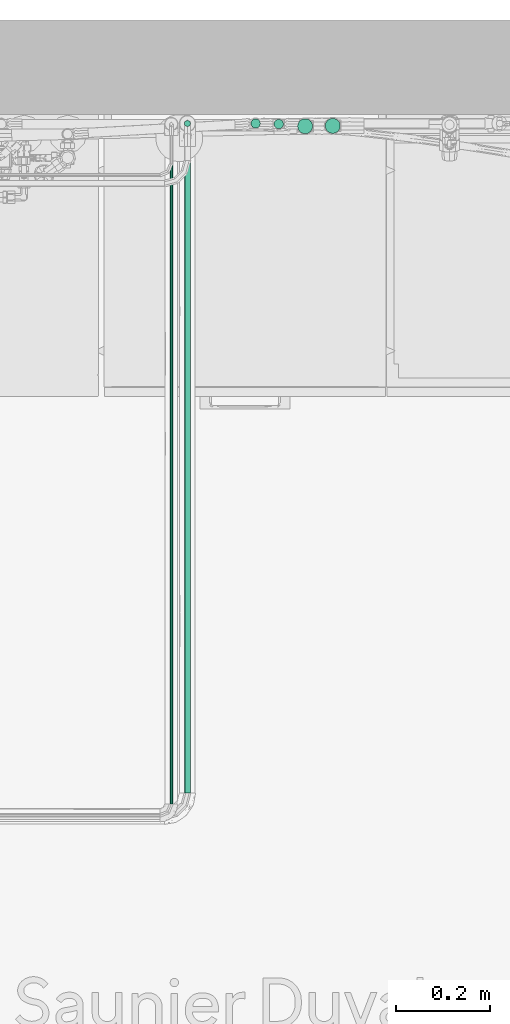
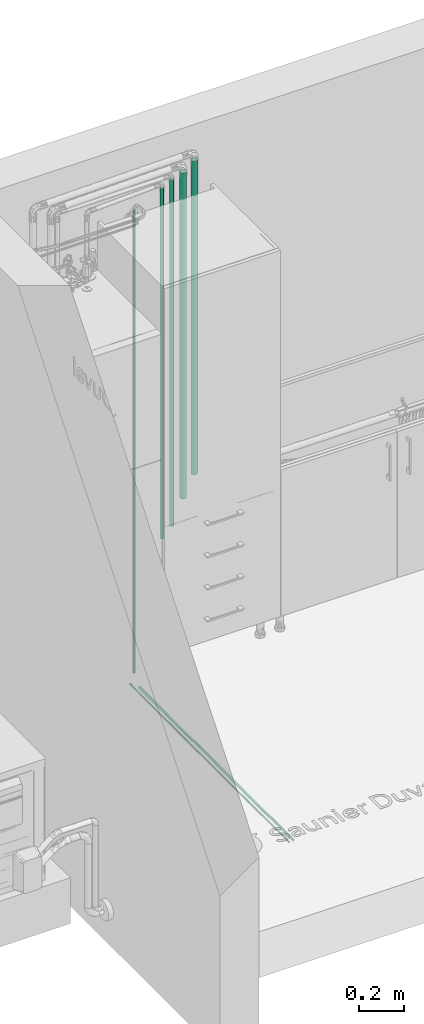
# One storey, part 15 of 30: 7 flow segments.
"""IFC2X3 building model written with IfcOpenShell, lengths in metres."""

import ifcopenshell
import ifcopenshell.guid

model = None  # the IFC model being written
_history = None  # IfcOwnerHistory: only IFC2X3 demands one
_inside = {}  # id of a spatial element -> (the spatial element, [elements in it])
_under = {}  # id of a project, library or spatial element -> (it, [spatial elements below it])
_declared = {}  # id of a project -> (the project, [libraries it declares])
_typed = {}  # id of a type object -> (the type object, [elements of that type])
_made_of = {}  # id of a material, layer set ... -> (it, [elements and type objects made of it])


def new_model(schema):
    """Start an empty IFC model of exactly this schema.

    Asked for "IFC4X3", IfcOpenShell would pick the latest addendum, in which some entities
    have other attributes; the version numbers below select the first issue.
    IFC2X3 requires an IfcOwnerHistory on every rooted entity: one is made here for all.
    """
    global model, _history
    if schema == "IFC4X3":
        model = ifcopenshell.file(schema_version=(4, 3, 0, 0))
    else:
        model = ifcopenshell.file(schema=schema)
    _inside.clear()
    _under.clear()
    _declared.clear()
    _typed.clear()
    _made_of.clear()
    _history = None
    if model.schema == "IFC2X3":
        org = make("IfcOrganization", Name="unknown")
        user = make(
            "IfcPersonAndOrganization",
            ThePerson=make("IfcPerson", FamilyName="unknown"),
            TheOrganization=org,
        )
        app = make(
            "IfcApplication",
            ApplicationDeveloper=org,
            Version="unknown",
            ApplicationFullName="unknown",
            ApplicationIdentifier="unknown",
        )
        _history = make(
            "IfcOwnerHistory",
            OwningUser=user,
            OwningApplication=app,
            ChangeAction="ADDED",
            CreationDate=0,
        )
    return model


def make(cls, **values):
    """One entity of the class cls with the attributes given. An attribute that is None is left unset."""
    return model.create_entity(
        cls, **{name: value for name, value in values.items() if value is not None}
    )


def entity(cls, *values):
    """Any entity or typed value of the class cls, its attributes in the order of the schema. None: left unset."""
    e = model.create_entity(cls)
    for i, value in enumerate(values):
        if value is not None:
            e[i] = value
    return e


def rooted(cls, **values):
    """An entity with a GlobalId (a new one), such as an element, a storey or a relation."""
    return make(cls, GlobalId=ifcopenshell.guid.new(), OwnerHistory=_history, **values)


def si_unit(unit_type, name, prefix=None):
    """IfcSIUnit, for example si_unit("LENGTHUNIT", "METRE", prefix="MILLI")."""
    return make("IfcSIUnit", UnitType=unit_type, Prefix=prefix, Name=name)


def converted_unit(unit_type, name, factor, base, dimensions=None, offset=None):
    """IfcConversionBasedUnit, such as the inch: factor (a typed value) times the base unit."""
    return make(
        "IfcConversionBasedUnit"
        if offset is None
        else "IfcConversionBasedUnitWithOffset",
        ConversionOffset=offset,
        Dimensions=None
        if dimensions is None
        else entity("IfcDimensionalExponents", *dimensions),
        UnitType=unit_type,
        Name=name,
        ConversionFactor=make(
            "IfcMeasureWithUnit", ValueComponent=factor, UnitComponent=base
        ),
    )


def derived_unit(unit_type, elements):
    """IfcDerivedUnit: a product of units, each with its exponent."""
    return make(
        "IfcDerivedUnit",
        Elements=[
            make("IfcDerivedUnitElement", Unit=unit, Exponent=power)
            for unit, power in elements
        ],
        UnitType=unit_type,
    )


def assignment(units):
    """IfcUnitAssignment: the units of a project."""
    return None if units is None else make("IfcUnitAssignment", Units=units)


def point(xyz):
    """IfcCartesianPoint."""
    return None if xyz is None else make("IfcCartesianPoint", Coordinates=xyz)


def direction(xyz):
    """IfcDirection."""
    return None if xyz is None else make("IfcDirection", DirectionRatios=xyz)


def frame(location, z_axis=None, x_axis=None):
    """IfcAxis2Placement3D, a coordinate frame: its origin and axes. An axis left out is left unset."""
    return make(
        "IfcAxis2Placement3D",
        Location=point(location),
        Axis=direction(z_axis),
        RefDirection=direction(x_axis),
    )


def frame_2d(location, x_axis=None):
    """IfcAxis2Placement2D, a coordinate frame in the plane: its origin and x axis."""
    return make(
        "IfcAxis2Placement2D", Location=point(location), RefDirection=direction(x_axis)
    )


def origin():
    """The frame at (0, 0, 0) with its axes left unset."""
    return frame((0.0, 0.0, 0.0))


def origin_2d_with_axis():
    """The frame at (0, 0) in the plane with the x axis (1, 0) written out."""
    return frame_2d((0.0, 0.0), x_axis=(1.0, 0.0))


def place(relative_to, where):
    """IfcLocalPlacement: puts the frame where relative to a parent placement (None: the world)."""
    return make(
        "IfcLocalPlacement", PlacementRelTo=relative_to, RelativePlacement=where
    )


def context(
    kind, dimensions, precision=None, world=None, true_north=None, identifier=None
):
    """IfcGeometricRepresentationContext, for example the 3D "Model" context."""
    return make(
        "IfcGeometricRepresentationContext",
        ContextIdentifier=identifier,
        ContextType=kind,
        CoordinateSpaceDimension=dimensions,
        Precision=precision,
        WorldCoordinateSystem=world,
        TrueNorth=true_north,
    )


def subcontext(parent, identifier, kind, view, scale=None):
    """IfcGeometricRepresentationSubContext, for example "Body" below "Model"."""
    return make(
        "IfcGeometricRepresentationSubContext",
        ContextIdentifier=identifier,
        ContextType=kind,
        ParentContext=parent,
        TargetScale=scale,
        TargetView=view,
    )


def project(units=None, contexts=None):
    """IfcProject with its units and contexts."""
    return rooted(
        "IfcProject",
        Name="project",
        RepresentationContexts=contexts,
        UnitsInContext=assignment(units),
    )


def spatial(cls, under=None, at=None, **own):
    """A site, building, storey or space (cls), placed at a placement, below another one or the project."""
    s = rooted(cls, ObjectPlacement=at, **own)
    if under is not None:
        _under.setdefault(under.id(), (under, []))[1].append(s)
    return s


def profile(cls, at=None, kind="AREA", **sizes):
    """A parametric profile (cls). Its sizes go by their IFC names, for example OverallWidth=200.0."""
    return make(cls, ProfileType=kind, Position=at, **sizes)


def circle(**sizes):
    """IfcCircleProfileDef."""
    return profile("IfcCircleProfileDef", **sizes)


def extrude(swept, where, along, depth):
    """IfcExtrudedAreaSolid: the profile swept, set in the frame where, extruded along a direction by depth."""
    return make(
        "IfcExtrudedAreaSolid",
        SweptArea=swept,
        Position=where,
        ExtrudedDirection=direction(along),
        Depth=depth,
    )


def shape(context_of_items, identifier, shape_type, items):
    """IfcShapeRepresentation: the items that make up one representation, for example the "Body"."""
    return make(
        "IfcShapeRepresentation",
        ContextOfItems=context_of_items,
        RepresentationIdentifier=identifier,
        RepresentationType=shape_type,
        Items=items,
    )


def made_of(thing, what):
    """Note that an element or type object is made of a material, layer set ...; save() writes the relation."""
    if what is not None:
        _made_of.setdefault(what.id(), (what, []))[1].append(thing)
    return thing


def type_object(cls, material=None, **own):
    """A type object (cls), such as IfcWallType, which elements share."""
    return made_of(rooted(cls, **own), material)


def element(
    cls,
    number,
    at=None,
    inside=None,
    cuts=None,
    type_object=None,
    material=None,
    context=None,
    identifier="Body",
    shape_type=None,
    held_by="IfcProductDefinitionShape",
    body=None,
    shapes=None,
    **own,
):
    """One element of the class cls, such as IfcWall. Its Tag is "e" and its number.

    at: its placement. inside: the storey or other place that contains it. cuts: it is an
    opening in that element (IfcRelVoidsElement). A single representation is given by context,
    identifier, shape_type and body (its items); several are given by shapes. held_by: the class
    of the entity that holds the representations. save() writes the other relations.
    """
    e = rooted(cls, Tag="e%d" % number, ObjectPlacement=at, **own)
    if body is not None:
        shapes = [shape(context, identifier, shape_type, body)]
    if shapes is not None:
        e.Representation = make(held_by, Representations=shapes)
    if inside is not None:
        _inside.setdefault(inside.id(), (inside, []))[1].append(e)
    if cuts is not None:
        rooted(
            "IfcRelVoidsElement", RelatingBuildingElement=cuts, RelatedOpeningElement=e
        )
    if type_object is not None:
        _typed.setdefault(type_object.id(), (type_object, []))[1].append(e)
    return made_of(e, material)


def aggregate(whole, parts):
    """IfcRelAggregates: a whole, such as a stair, and the parts it consists of."""
    return rooted("IfcRelAggregates", RelatingObject=whole, RelatedObjects=parts)


def save(model, path):
    """Write the relations noted so far, then the file.

    IfcRelAggregates (storeys below a building ...), IfcRelContainedInSpatialStructure (elements
    in a storey), IfcRelDefinesByType, IfcRelAssociatesMaterial and IfcRelDeclares: one each for
    every whole, place, type object, material and project.
    """
    for whole, parts in _under.values():
        aggregate(whole, parts)
    for where, things in _inside.values():
        rooted(
            "IfcRelContainedInSpatialStructure",
            RelatedElements=things,
            RelatingStructure=where,
        )
    for kind, things in _typed.values():
        rooted("IfcRelDefinesByType", RelatedObjects=things, RelatingType=kind)
    for what, things in _made_of.values():
        rooted("IfcRelAssociatesMaterial", RelatedObjects=things, RelatingMaterial=what)
    for by, libraries in _declared.values():
        rooted("IfcRelDeclares", RelatingContext=by, RelatedDefinitions=libraries)
    model.write(path)


model = new_model("IFC2X3")

# Units and contexts
model_context = context("Model", 3, precision=1e-05, world=origin(), true_north=direction((6.123031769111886e-17, 1.0)))
body_context = subcontext(model_context, "Body", "Model", "MODEL_VIEW")
ifc_project = project(units=[si_unit("LENGTHUNIT", "METRE"), si_unit("AREAUNIT", "SQUARE_METRE"), si_unit("VOLUMEUNIT", "CUBIC_METRE"), converted_unit("PLANEANGLEUNIT", "DEGREE", entity("IfcPlaneAngleMeasure", 0.017453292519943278), si_unit("PLANEANGLEUNIT", "RADIAN"), dimensions=[0, 0, 0, 0, 0, 0, 0]), si_unit("MASSUNIT", "GRAM", prefix="KILO"), derived_unit("MASSDENSITYUNIT", [(si_unit("MASSUNIT", "GRAM", prefix="KILO"), 1), (si_unit("LENGTHUNIT", "METRE"), -3)]), derived_unit("IONCONCENTRATIONUNIT", [(si_unit("MASSUNIT", "GRAM", prefix="KILO"), 1), (si_unit("LENGTHUNIT", "METRE"), -3)]), derived_unit("MOMENTOFINERTIAUNIT", [(si_unit("LENGTHUNIT", "METRE"), 4)]), si_unit("TIMEUNIT", "SECOND"), si_unit("FREQUENCYUNIT", "HERTZ"), si_unit("THERMODYNAMICTEMPERATUREUNIT", "DEGREE_CELSIUS"), derived_unit("THERMALTRANSMITTANCEUNIT", [(si_unit("MASSUNIT", "GRAM", prefix="KILO"), 1), (si_unit("THERMODYNAMICTEMPERATUREUNIT", "KELVIN"), -1), (si_unit("TIMEUNIT", "SECOND"), -3)]), derived_unit("THERMALCONDUCTANCEUNIT", [(si_unit("MASSUNIT", "GRAM", prefix="KILO"), 1), (si_unit("THERMODYNAMICTEMPERATUREUNIT", "KELVIN"), -1), (si_unit("TIMEUNIT", "SECOND"), -3), (si_unit("LENGTHUNIT", "METRE"), 1)]), derived_unit("VOLUMETRICFLOWRATEUNIT", [(si_unit("LENGTHUNIT", "METRE", prefix="DECI"), 3), (si_unit("TIMEUNIT", "SECOND"), -1)]), derived_unit("MASSFLOWRATEUNIT", [(si_unit("MASSUNIT", "GRAM", prefix="KILO"), 1), (si_unit("TIMEUNIT", "SECOND"), -1)]), derived_unit("ROTATIONALFREQUENCYUNIT", [(si_unit("TIMEUNIT", "SECOND"), -1)]), si_unit("ELECTRICCURRENTUNIT", "AMPERE"), si_unit("ELECTRICVOLTAGEUNIT", "VOLT"), si_unit("POWERUNIT", "WATT"), si_unit("FORCEUNIT", "NEWTON", prefix="KILO"), si_unit("ILLUMINANCEUNIT", "LUX"), si_unit("LUMINOUSFLUXUNIT", "LUMEN"), si_unit("LUMINOUSINTENSITYUNIT", "CANDELA"), si_unit("ENERGYUNIT", "JOULE"), derived_unit("USERDEFINED", [(si_unit("MASSUNIT", "GRAM", prefix="KILO"), -1), (si_unit("LENGTHUNIT", "METRE"), -2), (si_unit("TIMEUNIT", "SECOND"), 3), (si_unit("LUMINOUSFLUXUNIT", "LUMEN"), 1)]), derived_unit("USERDEFINED", [(si_unit("MASSUNIT", "GRAM", prefix="KILO"), 1), (si_unit("TIMEUNIT", "SECOND"), -3), (si_unit("LENGTHUNIT", "METRE"), 3), (si_unit("ELECTRICCURRENTUNIT", "AMPERE"), -2)]), derived_unit("SOUNDPOWERUNIT", [(si_unit("MASSUNIT", "GRAM", prefix="KILO"), 1), (si_unit("TIMEUNIT", "SECOND"), -3), (si_unit("LENGTHUNIT", "METRE"), 2)]), derived_unit("SOUNDPRESSUREUNIT", [(si_unit("MASSUNIT", "GRAM", prefix="KILO"), 1), (si_unit("LENGTHUNIT", "METRE"), -1), (si_unit("TIMEUNIT", "SECOND"), -2)]), derived_unit("LINEARVELOCITYUNIT", [(si_unit("LENGTHUNIT", "METRE"), 1), (si_unit("TIMEUNIT", "SECOND"), -1)]), si_unit("PRESSUREUNIT", "PASCAL"), derived_unit("USERDEFINED", [(si_unit("MASSUNIT", "GRAM", prefix="KILO"), 1), (si_unit("LENGTHUNIT", "METRE"), -2), (si_unit("TIMEUNIT", "SECOND"), -2)]), derived_unit("LINEARFORCEUNIT", [(si_unit("MASSUNIT", "GRAM", prefix="KILO"), 1), (si_unit("TIMEUNIT", "SECOND"), -2)]), derived_unit("PLANARFORCEUNIT", [(si_unit("MASSUNIT", "GRAM", prefix="KILO"), 1), (si_unit("LENGTHUNIT", "METRE"), -1), (si_unit("TIMEUNIT", "SECOND"), -2)]), derived_unit("SPECIFICHEATCAPACITYUNIT", [(si_unit("THERMODYNAMICTEMPERATUREUNIT", "KELVIN"), -1), (si_unit("LENGTHUNIT", "METRE"), 2), (si_unit("TIMEUNIT", "SECOND"), -2)]), derived_unit("HEATFLUXDENSITYUNIT", [(si_unit("MASSUNIT", "GRAM", prefix="KILO"), 1), (si_unit("TIMEUNIT", "SECOND"), -3)]), derived_unit("HEATINGVALUEUNIT", [(si_unit("LENGTHUNIT", "METRE"), 2), (si_unit("TIMEUNIT", "SECOND"), -2)]), derived_unit("VAPORPERMEABILITYUNIT", [(si_unit("LENGTHUNIT", "METRE"), -1), (si_unit("TIMEUNIT", "SECOND"), 1)]), derived_unit("DYNAMICVISCOSITYUNIT", [(si_unit("MASSUNIT", "GRAM", prefix="KILO"), 1), (si_unit("TIMEUNIT", "SECOND"), -1), (si_unit("LENGTHUNIT", "METRE"), -1)]), derived_unit("THERMALEXPANSIONCOEFFICIENTUNIT", [(si_unit("THERMODYNAMICTEMPERATUREUNIT", "KELVIN"), -1)]), derived_unit("MODULUSOFELASTICITYUNIT", [(si_unit("MASSUNIT", "GRAM", prefix="KILO"), 1), (si_unit("LENGTHUNIT", "METRE"), -1), (si_unit("TIMEUNIT", "SECOND"), -2)]), derived_unit("ISOTHERMALMOISTURECAPACITYUNIT", [(si_unit("MASSUNIT", "GRAM", prefix="KILO"), -1), (si_unit("LENGTHUNIT", "METRE"), 3)]), derived_unit("MOISTUREDIFFUSIVITYUNIT", [(si_unit("TIMEUNIT", "SECOND"), -1), (si_unit("LENGTHUNIT", "METRE"), 2)]), derived_unit("MASSPERLENGTHUNIT", [(si_unit("MASSUNIT", "GRAM", prefix="KILO"), 1), (si_unit("LENGTHUNIT", "METRE"), -1)]), derived_unit("THERMALRESISTANCEUNIT", [(si_unit("MASSUNIT", "GRAM", prefix="KILO"), -1), (si_unit("TIMEUNIT", "SECOND"), 3), (si_unit("THERMODYNAMICTEMPERATUREUNIT", "KELVIN"), 1)]), derived_unit("ACCELERATIONUNIT", [(si_unit("LENGTHUNIT", "METRE"), 1), (si_unit("TIMEUNIT", "SECOND"), -2)]), derived_unit("ANGULARVELOCITYUNIT", [(si_unit("TIMEUNIT", "SECOND"), -1), (si_unit("PLANEANGLEUNIT", "RADIAN"), 1)]), derived_unit("LINEARSTIFFNESSUNIT", [(si_unit("MASSUNIT", "GRAM", prefix="KILO"), 1), (si_unit("TIMEUNIT", "SECOND"), -2)]), derived_unit("WARPINGCONSTANTUNIT", [(si_unit("LENGTHUNIT", "METRE"), 6)]), derived_unit("LINEARMOMENTUNIT", [(si_unit("MASSUNIT", "GRAM", prefix="KILO"), 1), (si_unit("LENGTHUNIT", "METRE"), 1), (si_unit("TIMEUNIT", "SECOND"), -2)]), derived_unit("TORQUEUNIT", [(si_unit("MASSUNIT", "GRAM", prefix="KILO"), 1), (si_unit("LENGTHUNIT", "METRE"), 2), (si_unit("TIMEUNIT", "SECOND"), -2)])], contexts=[model_context])

# Site, building, storey
site_placement = place(None, origin())
site = spatial("IfcSite", under=ifc_project, at=site_placement, Name="Default", CompositionType="ELEMENT")
building_placement = place(site_placement, origin())
building = spatial("IfcBuilding", under=site, at=building_placement, CompositionType="ELEMENT")
storey_placement = place(building_placement, origin())
storey = spatial("IfcBuildingStorey", under=building, at=storey_placement, Name="Niveau 0", CompositionType="ELEMENT", Elevation=-1.949160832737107e-14)

# Flow segments
pipe_segment_type_1 = type_object("IfcPipeSegmentType", Name="Canalisation:Cuivre Frigo", PredefinedType="NOTDEFINED")
flow_segment_1_placement = place(storey_placement, origin())
element("IfcFlowSegment", 1, at=flow_segment_1_placement, inside=storey, type_object=pipe_segment_type_1, Name="Canalisation:Cuivre Frigo", ObjectType="Canalisation:Cuivre Frigo", context=body_context, shape_type="SweptSolid", body=[
    extrude(circle(Radius=0.00635, at=origin_2d_with_axis()), frame((-19.82878943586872, 2.849276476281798, -0.36570000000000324), z_axis=(0.0, 0.0, 1.0), x_axis=(-1.0, 0.0, 0.0)), (0.0, 0.0, 1.0), 2.5215379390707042),
])
flow_segment_2_placement = place(storey_placement, origin())
element("IfcFlowSegment", 2, at=flow_segment_2_placement, inside=storey, type_object=pipe_segment_type_1, Name="Canalisation:Cuivre Frigo", ObjectType="Canalisation:Cuivre Frigo", context=body_context, shape_type="SweptSolid", body=[
    extrude(circle(Radius=0.0032, at=frame_2d((0.0, -6.767919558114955e-17), x_axis=(1.0, 0.0))), frame((-19.86316439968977, 1.4011530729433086, -0.3999999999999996), z_axis=(0.0, 1.0, 0.0), x_axis=(-1.0, 0.0, 0.0)), (0.0, 0.0, 1.0), 1.423023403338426),
])
flow_segment_3_placement = place(storey_placement, origin())
element("IfcFlowSegment", 3, at=flow_segment_3_placement, inside=storey, type_object=pipe_segment_type_1, Name="Canalisation:Cuivre Frigo", ObjectType="Canalisation:Cuivre Frigo", context=body_context, shape_type="SweptSolid", body=[
    extrude(circle(Radius=0.00635, at=frame_2d((0.0, -6.767919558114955e-17), x_axis=(1.0, 0.0))), frame((-19.82878943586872, 1.4243530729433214, -0.4150000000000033), z_axis=(0.0, 1.0, 0.0), x_axis=(-1.0, 0.0, 0.0)), (0.0, 0.0, 1.0), 1.375623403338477),
])
pipe_segment_type_2 = type_object("IfcPipeSegmentType", Name="Canalisation:COMAP MULTISKIN - SKINPRESS PPSU", PredefinedType="NOTDEFINED")
flow_segment_4_placement = place(storey_placement, origin())
element("IfcFlowSegment", 4, at=flow_segment_4_placement, inside=storey, type_object=pipe_segment_type_2, Name="Canalisation:COMAP MULTISKIN - SKINPRESS PPSU", ObjectType="Canalisation:COMAP MULTISKIN - SKINPRESS PPSU", context=body_context, shape_type="SweptSolid", body=[
    extrude(circle(Radius=0.01, at=origin_2d_with_axis()), frame((-19.683748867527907, 2.8492961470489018, 0.3199999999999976)), (0.0, 0.0, 1.0), 1.9100419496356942),
])
flow_segment_5_placement = place(storey_placement, origin())
element("IfcFlowSegment", 5, at=flow_segment_5_placement, inside=storey, type_object=pipe_segment_type_2, Name="Canalisation:COMAP MULTISKIN - SKINPRESS PPSU", ObjectType="Canalisation:COMAP MULTISKIN - SKINPRESS PPSU", context=body_context, shape_type="SweptSolid", body=[
    extrude(circle(Radius=0.01, at=origin_2d_with_axis()), frame((-19.634537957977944, 2.8480800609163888, 0.3699999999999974), z_axis=(0.0, 0.0, 1.0), x_axis=(-1.0, 0.0, 0.0)), (0.0, 0.0, 1.0), 1.8904986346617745),
])
flow_segment_6_placement = place(storey_placement, origin())
element("IfcFlowSegment", 6, at=flow_segment_6_placement, inside=storey, type_object=pipe_segment_type_2, Name="Canalisation:COMAP MULTISKIN - SKINPRESS PPSU", ObjectType="Canalisation:COMAP MULTISKIN - SKINPRESS PPSU", context=body_context, shape_type="SweptSolid", body=[
    extrude(circle(Radius=0.016, at=origin_2d_with_axis()), frame((-19.519733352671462, 2.8443084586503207, 0.6189440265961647), z_axis=(0.0, 0.0, 1.0), x_axis=(-1.0, 0.0, 0.0)), (0.0, 0.0, 1.0), 1.7113559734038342),
])
flow_segment_7_placement = place(storey_placement, origin())
element("IfcFlowSegment", 7, at=flow_segment_7_placement, inside=storey, type_object=pipe_segment_type_2, Name="Canalisation:COMAP MULTISKIN - SKINPRESS PPSU", ObjectType="Canalisation:COMAP MULTISKIN - SKINPRESS PPSU", context=body_context, shape_type="SweptSolid", body=[
    extrude(circle(Radius=0.016, at=frame_2d((0.0, 5.414335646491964e-16), x_axis=(1.0, 0.0))), frame((-19.57823659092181, 2.8434698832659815, 0.5085625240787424), z_axis=(0.0, 0.0, 1.0), x_axis=(-1.0, 0.0, 0.0)), (0.0, 0.0, 1.0), 1.7767754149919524),
])

save(model, "model.ifc")
